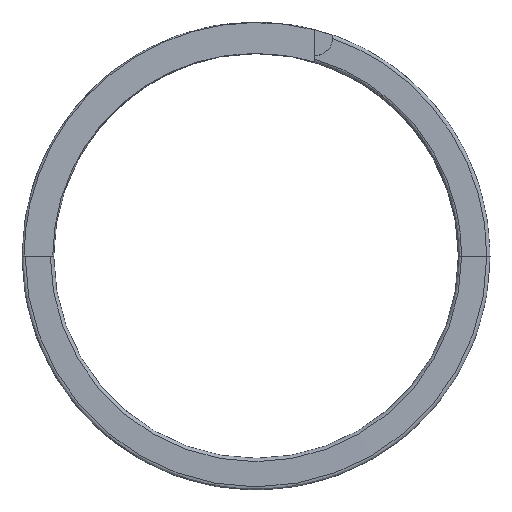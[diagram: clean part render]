
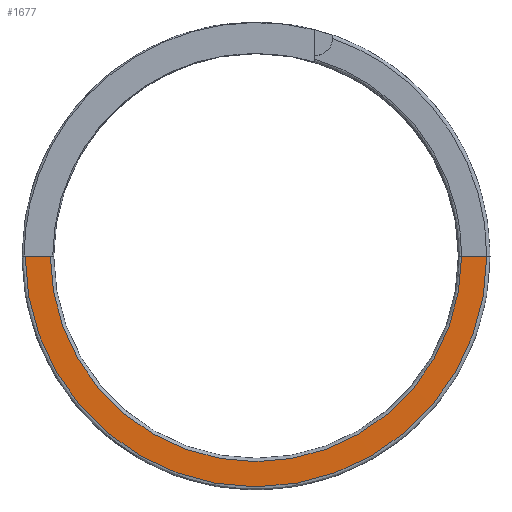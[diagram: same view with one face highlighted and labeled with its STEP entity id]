
A CAD part, front view. The second image highlights one B-rep face of the part: STEP entity #1677.
In plain terms, the highlighted conical face has half-angle 89.52 degrees and reference radius 18.166 mm.
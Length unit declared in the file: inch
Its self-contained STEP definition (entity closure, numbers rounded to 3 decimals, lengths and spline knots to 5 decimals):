
#12 = CARTESIAN_POINT ( 'NONE',  ( 0.637, -0.025, 0. ) ) ;
#38 = ORIENTED_EDGE ( 'NONE', *, *, #1064, .T. ) ;
#55 = CARTESIAN_POINT ( 'NONE',  ( -0.63733, -0.01432, 0. ) ) ;
#180 = EDGE_CURVE ( 'NONE', #870, #536, #1040, .T. ) ;
#202 = DIRECTION ( 'NONE',  ( -1., 0.008, 0. ) ) ;
#275 = CARTESIAN_POINT ( 'NONE',  ( -0.71532, -0.01302, 0. ) ) ;
#292 = VECTOR ( 'NONE', #1742, 39.37008 ) ;
#329 = DIRECTION ( 'NONE',  ( -1., 0.008, 0. ) ) ;
#342 = DIRECTION ( 'NONE',  ( 0.008, 1., 0. ) ) ;
#395 = VERTEX_POINT ( 'NONE', #1654 ) ;
#420 = VERTEX_POINT ( 'NONE', #2165 ) ;
#481 = LINE ( 'NONE', #12, #1380 ) ;
#536 = VERTEX_POINT ( 'NONE', #275 ) ;
#571 = AXIS2_PLACEMENT_3D ( 'NONE', #1678, #1985, #329 ) ;
#655 = ORIENTED_EDGE ( 'NONE', *, *, #180, .T. ) ;
#675 = CIRCLE ( 'NONE', #986, 0.71518 ) ;
#691 = ORIENTED_EDGE ( 'NONE', *, *, #1036, .T. ) ;
#838 = FACE_OUTER_BOUND ( 'NONE', #1765, .T. ) ;
#870 = VERTEX_POINT ( 'NONE', #1568 ) ;
#986 = AXIS2_PLACEMENT_3D ( 'NONE', #1520, #1693, #1173 ) ;
#1036 = EDGE_CURVE ( 'NONE', #420, #870, #1165, .T. ) ;
#1040 = LINE ( 'NONE', #55, #292 ) ;
#1064 = EDGE_CURVE ( 'NONE', #395, #420, #481, .T. ) ;
#1165 = CIRCLE ( 'NONE', #571, 0.63719 ) ;
#1173 = DIRECTION ( 'NONE',  ( -1., 0.008, 0. ) ) ;
#1233 = CONICAL_SURFACE ( 'NONE', #1754, 0.71518, 1.562 ) ;
#1252 = ORIENTED_EDGE ( 'NONE', *, *, #1668, .T. ) ;
#1328 = CARTESIAN_POINT ( 'NONE',  ( -0.00016, -0.01901, 0. ) ) ;
#1348 = DIRECTION ( 'NONE',  ( -1., 0., 0. ) ) ;
#1380 = VECTOR ( 'NONE', #1348, 39.37008 ) ;
#1520 = CARTESIAN_POINT ( 'NONE',  ( -0.00016, -0.01901, 0. ) ) ;
#1568 = CARTESIAN_POINT ( 'NONE',  ( -0.63733, -0.01432, 0. ) ) ;
#1654 = CARTESIAN_POINT ( 'NONE',  ( 0.715, -0.025, 0. ) ) ;
#1668 = EDGE_CURVE ( 'NONE', #536, #395, #675, .T. ) ;
#1677 = ADVANCED_FACE ( 'NONE', ( #838 ), #1233, .T. ) ;
#1678 = CARTESIAN_POINT ( 'NONE',  ( -0.00016, -0.01966, 0. ) ) ;
#1693 = DIRECTION ( 'NONE',  ( -0.008, -1., 0. ) ) ;
#1742 = DIRECTION ( 'NONE',  ( -1., 0.017, 0. ) ) ;
#1754 = AXIS2_PLACEMENT_3D ( 'NONE', #1328, #342, #202 ) ;
#1765 = EDGE_LOOP ( 'NONE', ( #691, #655, #1252, #38 ) ) ;
#1985 = DIRECTION ( 'NONE',  ( 0.008, 1., 0. ) ) ;
#2165 = CARTESIAN_POINT ( 'NONE',  ( 0.637, -0.025, 0. ) ) ;
